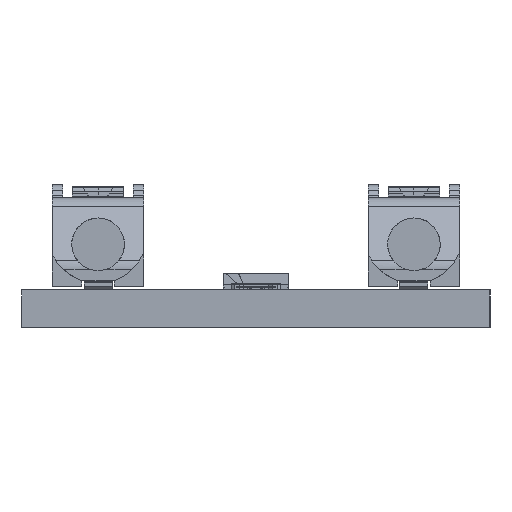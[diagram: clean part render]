
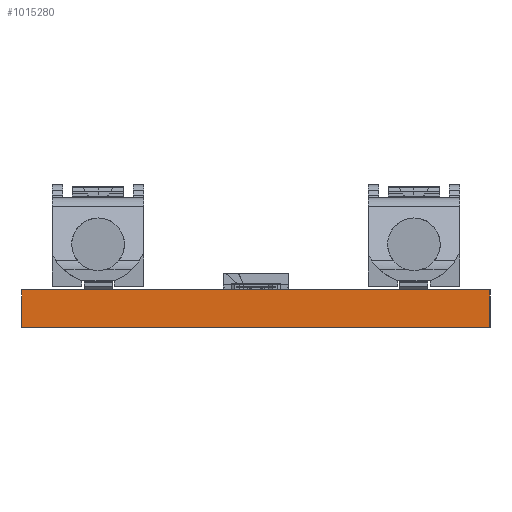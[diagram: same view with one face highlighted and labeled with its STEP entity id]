
A CAD part, left-side view. The second image highlights one B-rep face of the part: STEP entity #1015280.
In plain terms, the highlighted planar face has unit normal (-1, 0, 0).
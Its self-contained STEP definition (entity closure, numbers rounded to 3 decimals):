
#996030=CARTESIAN_POINT('',(63.848,50.036,0.));
#996040=DIRECTION('',(0.,1.,0.));
#996050=VECTOR('',#996040,0.039);
#996060=LINE('',#996030,#996050);
#996070=CARTESIAN_POINT('',(63.848,50.036,0.));
#996080=VERTEX_POINT('',#996070);
#996090=CARTESIAN_POINT('',(63.848,70.036,0.));
#996100=VERTEX_POINT('',#996090);
#996110=EDGE_CURVE('',#996080,#996100,#996060,.T.);
#1002420=CARTESIAN_POINT('',(63.848,50.036,-1.6));
#1002430=VERTEX_POINT('',#1002420);
#1004560=CARTESIAN_POINT('',(63.848,70.036,-1.6));
#1004570=VERTEX_POINT('',#1004560);
#1004600=CARTESIAN_POINT('',(63.848,50.036,-1.6));
#1004610=DIRECTION('',(0.,1.,0.));
#1004620=VECTOR('',#1004610,0.039);
#1004630=LINE('',#1004600,#1004620);
#1004640=EDGE_CURVE('',#1002430,#1004570,#1004630,.T.);
#1008770=CARTESIAN_POINT('',(63.848,50.036,0.));
#1008780=DIRECTION('',(0.,0.,-1.));
#1008790=VECTOR('',#1008780,1.);
#1008800=LINE('',#1008770,#1008790);
#1008810=EDGE_CURVE('',#996080,#1002430,#1008800,.T.);
#1014990=CARTESIAN_POINT('',(63.848,70.036,0.));
#1015000=DIRECTION('',(0.,0.,-1.));
#1015010=VECTOR('',#1015000,1.);
#1015020=LINE('',#1014990,#1015010);
#1015030=EDGE_CURVE('',#996100,#1004570,#1015020,.T.);
#1015170=CARTESIAN_POINT('',(63.848,50.036,0.));
#1015180=DIRECTION('',(1.,0.,0.));
#1015190=DIRECTION('',(0.,-1.,0.));
#1015200=AXIS2_PLACEMENT_3D('',#1015170,#1015180,#1015190);
#1015210=PLANE('',#1015200);
#1015220=ORIENTED_EDGE('',*,*,#996110,.T.);
#1015230=ORIENTED_EDGE('',*,*,#1008810,.F.);
#1015240=ORIENTED_EDGE('',*,*,#1004640,.F.);
#1015250=ORIENTED_EDGE('',*,*,#1015030,.T.);
#1015260=EDGE_LOOP('',(#1015250,#1015240,#1015230,#1015220));
#1015270=FACE_OUTER_BOUND('',#1015260,.T.);
#1015280=ADVANCED_FACE('',(#1015270),#1015210,.F.);
